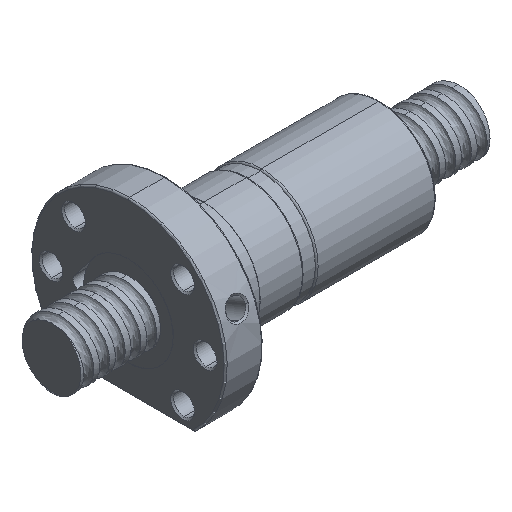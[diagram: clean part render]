
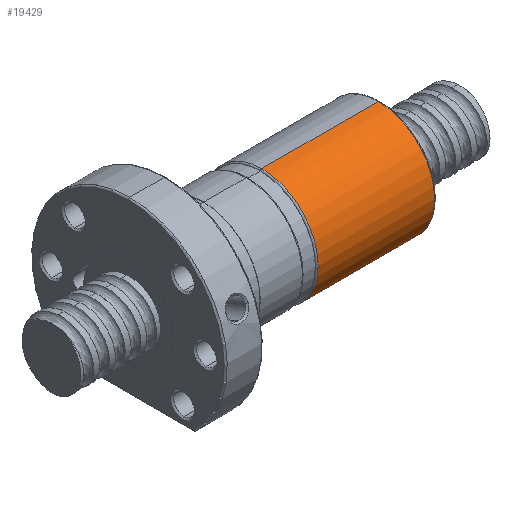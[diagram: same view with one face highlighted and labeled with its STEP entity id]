
A CAD part, isometric view. The second image highlights one B-rep face of the part: STEP entity #19429.
In plain terms, the highlighted cylindrical face has radius 17.9 mm (diameter 35.8 mm), a partial arc.
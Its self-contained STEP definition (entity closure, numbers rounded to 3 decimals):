
#2727 = CARTESIAN_POINT ( 'NONE',  ( -37.51, 0., 17.9 ) ) ;
#2728 = CARTESIAN_POINT ( 'NONE',  ( -37.51, 0., -17.9 ) ) ;
#3148 = CARTESIAN_POINT ( 'NONE',  ( -0.5, 0., -17.9 ) ) ;
#3149 = CARTESIAN_POINT ( 'NONE',  ( -0.5, 0., 17.9 ) ) ;
#3469 = DIRECTION ( 'NONE',  ( -1., 0., 0. ) ) ;
#3470 = VECTOR ( 'NONE', #3469, 1000. ) ;
#3471 = CARTESIAN_POINT ( 'NONE',  ( 0., 0., 17.9 ) ) ;
#3472 = LINE ( 'NONE', #3471, #3470 ) ;
#3473 = DIRECTION ( 'NONE',  ( -1., 0., 0. ) ) ;
#3474 = VECTOR ( 'NONE', #3473, 1000. ) ;
#3475 = CARTESIAN_POINT ( 'NONE',  ( 0., 0., -17.9 ) ) ;
#3476 = LINE ( 'NONE', #3475, #3474 ) ;
#3742 = DIRECTION ( 'NONE',  ( 0., 0., 1. ) ) ;
#3743 = DIRECTION ( 'NONE',  ( -1., 0., 0. ) ) ;
#3744 = CARTESIAN_POINT ( 'NONE',  ( 0., 0., 0. ) ) ;
#3745 = AXIS2_PLACEMENT_3D ( 'NONE', #3744, #3743, #3742 ) ;
#3747 = CYLINDRICAL_SURFACE ( 'NONE', #3745, 17.9 ) ;
#3748 = FACE_OUTER_BOUND ( 'NONE', #19430, .T. ) ;
#3782 = DIRECTION ( 'NONE',  ( 0., 0., 1. ) ) ;
#3783 = DIRECTION ( 'NONE',  ( 1., 0., 0. ) ) ;
#3784 = CARTESIAN_POINT ( 'NONE',  ( -37.51, 0., 0. ) ) ;
#3785 = AXIS2_PLACEMENT_3D ( 'NONE', #3784, #3783, #3782 ) ;
#3786 = CIRCLE ( 'NONE', #3785, 17.9 ) ;
#3787 = DIRECTION ( 'NONE',  ( 0., 0., -1. ) ) ;
#3788 = DIRECTION ( 'NONE',  ( -1., 0., 0. ) ) ;
#3789 = CARTESIAN_POINT ( 'NONE',  ( -0.5, 0., 0. ) ) ;
#3790 = AXIS2_PLACEMENT_3D ( 'NONE', #3789, #3788, #3787 ) ;
#3791 = CIRCLE ( 'NONE', #3790, 17.9 ) ;
#19080 = VERTEX_POINT ( 'NONE', #2728 ) ;
#19081 = VERTEX_POINT ( 'NONE', #2727 ) ;
#19227 = VERTEX_POINT ( 'NONE', #3149 ) ;
#19228 = VERTEX_POINT ( 'NONE', #3148 ) ;
#19348 = EDGE_CURVE ( 'NONE', #19228, #19080, #3476, .T. ) ;
#19351 = EDGE_CURVE ( 'NONE', #19227, #19081, #3472, .T. ) ;
#19429 = ADVANCED_FACE ( 'NONE', ( #3748 ), #3747, .T. ) ;
#19430 = EDGE_LOOP ( 'NONE', ( #19445, #19446, #19448, #19449 ) ) ;
#19445 = ORIENTED_EDGE ( 'NONE', *, *, #19348, .F. ) ;
#19446 = ORIENTED_EDGE ( 'NONE', *, *, #19447, .T. ) ;
#19447 = EDGE_CURVE ( 'NONE', #19228, #19227, #3791, .T. ) ;
#19448 = ORIENTED_EDGE ( 'NONE', *, *, #19351, .T. ) ;
#19449 = ORIENTED_EDGE ( 'NONE', *, *, #19450, .T. ) ;
#19450 = EDGE_CURVE ( 'NONE', #19081, #19080, #3786, .T. ) ;
